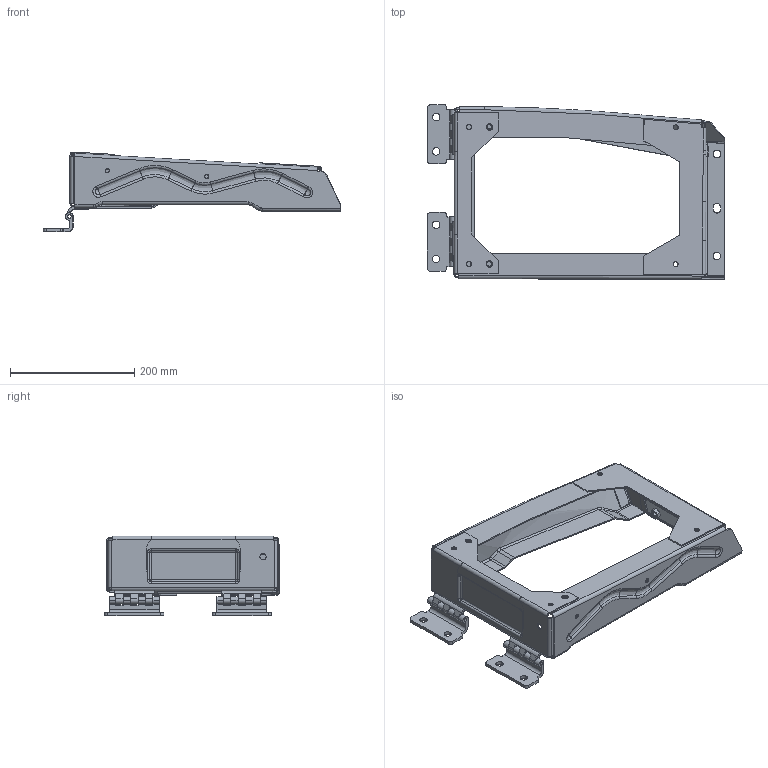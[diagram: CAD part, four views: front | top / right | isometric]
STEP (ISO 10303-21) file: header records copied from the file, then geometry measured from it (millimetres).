
FILE_DESCRIPTION(('CATIA V5 STEP Exchange'),'2;1');
FILE_NAME('E:\项目\H4-2.1座椅\07-3D+2D\H4681010070A0\H4681010070A0.stp','2024-03-18T01:19:16+00:00',('none'),('none'),'CATIA Version 5 Release 20 GA (IN-10)','CATIA V5 STEP AP214','none');
FILE_SCHEMA(('AUTOMOTIVE_DESIGN { 1 0 10303 214 1 1 1 1 }'));
Products named in the file (14): H4681010070A0; H4681010071A0; H4681010071A0-1; GB_T 13681-1992; Q370C06; H4681010072A0; H4681010072A0-1; H4681010073A0; H4681010075A0; H4681010076A0; H4681010077A0; H4A-6805201; SHT0017168; H4681010074A0
Assembly tree (22 placements, depth 3):
  H4681010070A0
    H4681010071A0
      H4681010071A0-1
      GB_T 13681-1992  x3
      Q370C06  x2
    H4681010072A0
      H4681010072A0-1
      GB_T 13681-1992  x4
    H4681010073A0
    H4681010075A0  x2
      H4681010076A0
      H4681010077A0
      H4A-6805201
    SHT0017168
      H4681010074A0
      GB_T 13681-1992
Bounding box: 478 x 280.61 x 128.59 mm (x, y, z)
Volume: 492745.6 mm3; surface area: 462867.5 mm2
Topology: 18 solids, 18 shells, 1018 faces, 2656 edges, 1674 vertices
Faces by surface type: plane 376, cylinder 295, bspline 203, cone 80, extrusion 22, sphere 22, torus 16, revolution 4
Entity records: 40731 total; most frequent: CARTESIAN_POINT 26222, ORIENTED_EDGE 3446, DIRECTION 1933, EDGE_CURVE 1723, VERTEX_POINT 1070, VECTOR 754, B_SPLINE_CURVE_WITH_KNOTS 748, EDGE_LOOP 745
